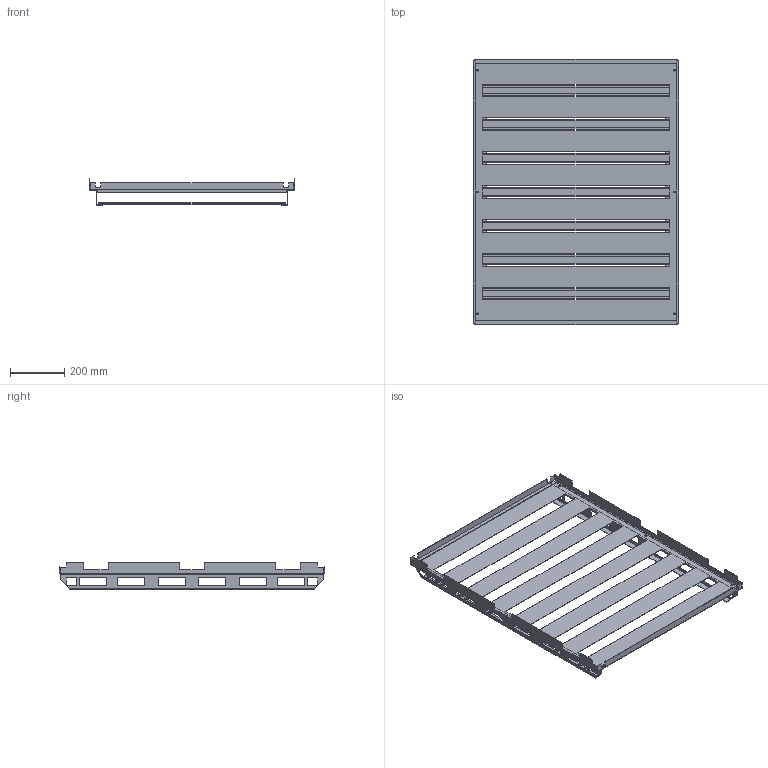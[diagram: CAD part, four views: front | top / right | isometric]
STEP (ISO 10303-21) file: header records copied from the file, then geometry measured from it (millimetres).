
FILE_DESCRIPTION( ( 'STEP AP214' ), '1' );
FILE_NAME( 'p:/temp/worker_109/temp/exporttempdir_4988_129_TYuhD/format_0/AC10080R5(0).stp', '2021-03-15T11:54:07', ( 'License CC BY-ND 4.0' ), ( 'CADENAS' ), ' ', 'PARTsolutions', ' ' );
FILE_SCHEMA( ( 'AUTOMOTIVE_DESIGN { 1 0 10303 214 1 1 1 1 }' ) );
Length unit declared in the file: millimetre
Products named in the file (5): AC10080R5(0); _AC10080R5(0)_P2; _AC1000(0); _MC 800-1000(0); _AC10080R5(0)_P1
Assembly tree (12 placements, depth 2):
  AC10080R5(0)
    _AC10080R5(0)_P2
    _AC1000(0)  x2
    _MC 800-1000(0)  x2
    _AC10080R5(0)_P1  x7
Bounding box: 760 x 980 x 98 mm (x, y, z)
Volume: 1414174.4 mm3; surface area: 2089069.3 mm2
Topology: 12 solids, 12 shells, 334 faces, 930 edges, 620 vertices
Faces by surface type: plane 324, cylinder 10
Full cylindrical faces by diameter (mm): 6.5 x6
Entity records: 6518 total; most frequent: CARTESIAN_POINT 915, ORIENTED_EDGE 888, DIRECTION 802, EDGE_CURVE 444, LINE 428, VECTOR 428, VERTEX_POINT 300, EDGE_LOOP 206
